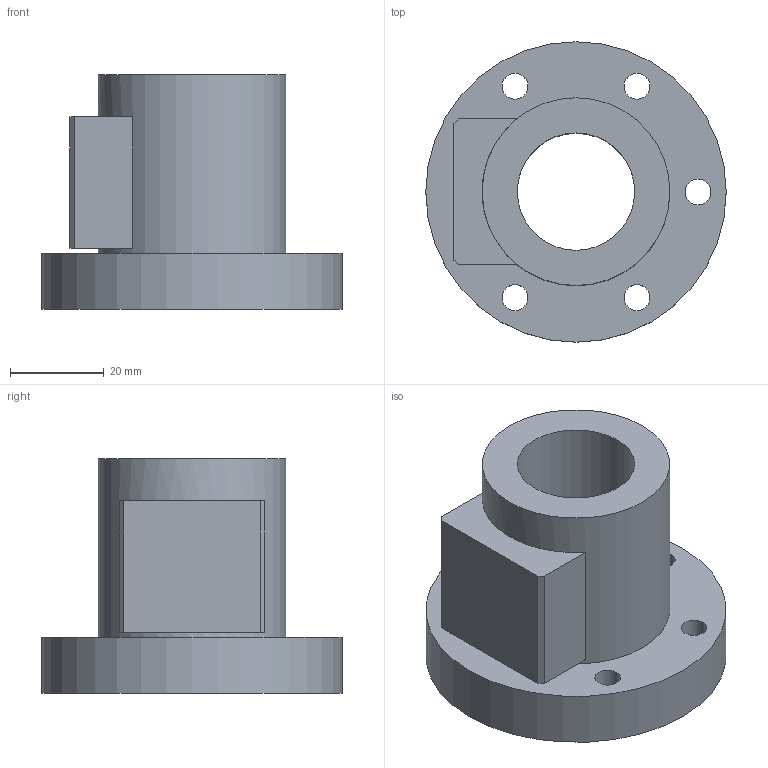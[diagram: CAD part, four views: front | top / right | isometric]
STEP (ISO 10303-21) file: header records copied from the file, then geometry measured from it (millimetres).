
FILE_DESCRIPTION(/* description */ (''),/* implementation_level */ '2;1');
FILE_NAME(/* name */ '25-5C1',/* time_stamp */ '2006-06-16T09:32:59+08:00',/* author */ (''),/* organization */ (''),/* preprocessor_version */ 'ST-DEVELOPER v9',/* originating_system */ 'UGS - NX 4.0',/* authorisation */ '');
FILE_SCHEMA (('CONFIG_CONTROL_DESIGN'));
Length unit declared in the file: millimetre
Products named in the file (1): 25-5C1
Bounding box: 64 x 64 x 50 mm (x, y, z)
Volume: 66214.4 mm3; surface area: 18811 mm2
Topology: 1 solids, 1 shells, 28 faces, 61 edges, 42 vertices
Faces by surface type: plane 15, cylinder 13
Full cylindrical faces by diameter (mm): 5.5 x5, 9.5 x5, 25 x1, 40 x1, 64 x1
Entity records: 794 total; most frequent: DIRECTION 130, CARTESIAN_POINT 111, ORIENTED_EDGE 88, EDGE_LOOP 60, AXIS2_PLACEMENT_3D 57, FACE_BOUND 45, EDGE_CURVE 44, VERTEX_POINT 38
